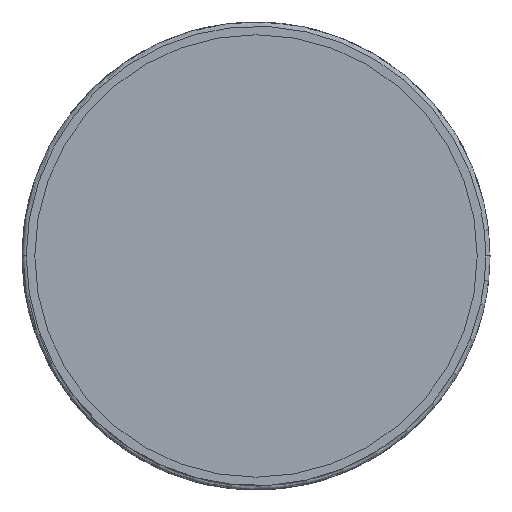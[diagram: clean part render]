
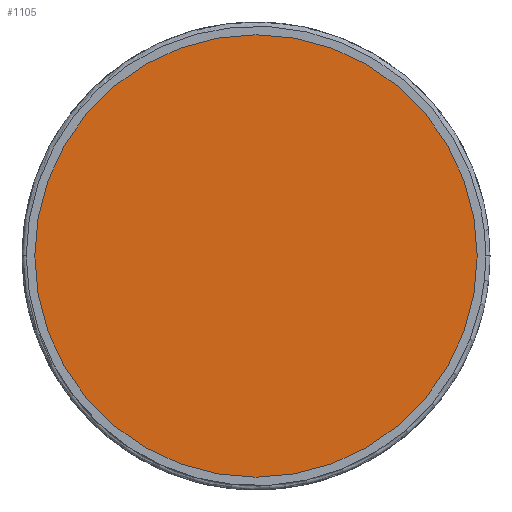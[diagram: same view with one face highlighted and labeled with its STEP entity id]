
A CAD part, top view. The second image highlights one B-rep face of the part: STEP entity #1105.
In plain terms, the highlighted planar face has unit normal (0, 0, 1).
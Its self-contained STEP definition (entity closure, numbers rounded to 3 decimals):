
#253=FACE_OUTER_BOUND('',#334,.T.);
#334=EDGE_LOOP('',(#806,#807));
#420=CIRCLE('',#1199,270.);
#421=CIRCLE('',#1200,270.);
#498=VERTEX_POINT('',#1934);
#499=VERTEX_POINT('',#1935);
#610=EDGE_CURVE('',#498,#499,#420,.T.);
#611=EDGE_CURVE('',#499,#498,#421,.T.);
#806=ORIENTED_EDGE('',*,*,#610,.F.);
#807=ORIENTED_EDGE('',*,*,#611,.F.);
#1081=PLANE('',#1198);
#1105=ADVANCED_FACE('',(#253),#1081,.F.);
#1198=AXIS2_PLACEMENT_3D('',#1933,#1384,#1385);
#1199=AXIS2_PLACEMENT_3D('',#1936,#1386,#1387);
#1200=AXIS2_PLACEMENT_3D('',#1937,#1388,#1389);
#1384=DIRECTION('center_axis',(0.,0.,
-1.));
#1385=DIRECTION('ref_axis',(0.851,-0.525,0.));
#1386=DIRECTION('center_axis',(0.,0.,
-1.));
#1387=DIRECTION('ref_axis',(-0.851,0.525,0.));
#1388=DIRECTION('center_axis',(0.,0.,
-1.));
#1389=DIRECTION('ref_axis',(-0.851,0.525,0.));
#1933=CARTESIAN_POINT('Origin',(0.,0.,
77.415));
#1934=CARTESIAN_POINT('',(-229.817,141.718,77.415));
#1935=CARTESIAN_POINT('',(229.817,-141.718,77.415));
#1936=CARTESIAN_POINT('Origin',(0.,0.,
77.415));
#1937=CARTESIAN_POINT('Origin',(0.,0.,
77.415));
